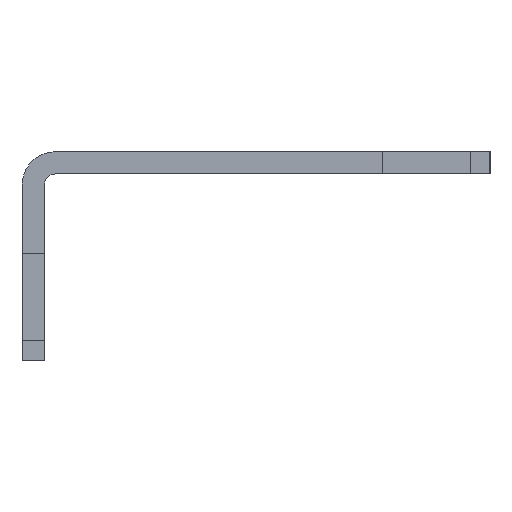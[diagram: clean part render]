
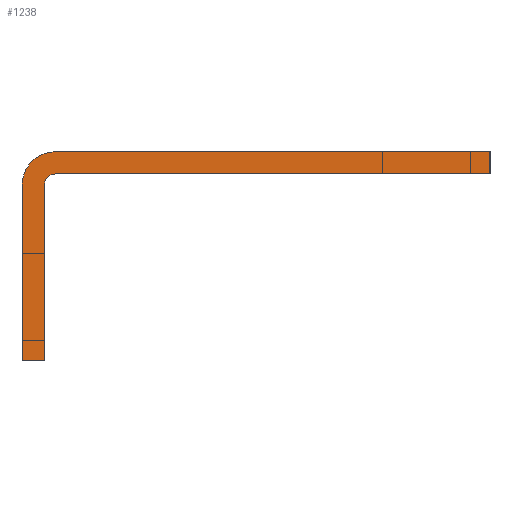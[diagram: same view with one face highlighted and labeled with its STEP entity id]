
A CAD part, left-side view. The second image highlights one B-rep face of the part: STEP entity #1238.
In plain terms, the highlighted planar face has unit normal (-1, 0, 0).
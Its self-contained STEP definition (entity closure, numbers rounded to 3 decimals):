
#1238 = ADVANCED_FACE( '', ( #3088 ), #3089, .T. );
#3088 = FACE_OUTER_BOUND( '', #5547, .T. );
#3089 = PLANE( '', #5548 );
#5547 = EDGE_LOOP( '', ( #9803, #9804, #9805, #9806, #9807, #9808, #9809, #9810 ) );
#5548 = AXIS2_PLACEMENT_3D( '', #9811, #9812, #9813 );
#9803 = ORIENTED_EDGE( '', *, *, #15645, .T. );
#9804 = ORIENTED_EDGE( '', *, *, #14916, .T. );
#9805 = ORIENTED_EDGE( '', *, *, #15696, .F. );
#9806 = ORIENTED_EDGE( '', *, *, #15697, .T. );
#9807 = ORIENTED_EDGE( '', *, *, #14559, .T. );
#9808 = ORIENTED_EDGE( '', *, *, #14196, .F. );
#9809 = ORIENTED_EDGE( '', *, *, #15698, .F. );
#9810 = ORIENTED_EDGE( '', *, *, #15699, .F. );
#9811 = CARTESIAN_POINT( '', ( -622.681, -25.4, 2.413 ) );
#9812 = DIRECTION( '', ( -1., 0., 0. ) );
#9813 = DIRECTION( '', ( 0., 0., 1. ) );
#14196 = EDGE_CURVE( '', #17098, #17100, #17101, .T. );
#14559 = EDGE_CURVE( '', #17805, #17100, #17806, .T. );
#14916 = EDGE_CURVE( '', #18385, #18389, #18391, .T. );
#15645 = EDGE_CURVE( '', #19546, #18385, #19547, .T. );
#15696 = EDGE_CURVE( '', #19616, #18389, #19617, .T. );
#15697 = EDGE_CURVE( '', #19616, #17805, #19618, .T. );
#15698 = EDGE_CURVE( '', #19619, #17098, #19620, .T. );
#15699 = EDGE_CURVE( '', #19546, #19619, #19621, .T. );
#17098 = VERTEX_POINT( '', #21402 );
#17100 = VERTEX_POINT( '', #21405 );
#17101 = CIRCLE( '', #21406, 1.219 );
#17805 = VERTEX_POINT( '', #22461 );
#17806 = LINE( '', #22462, #22463 );
#18385 = VERTEX_POINT( '', #23311 );
#18389 = VERTEX_POINT( '', #23316 );
#18391 = CIRCLE( '', #23319, 3.632 );
#19546 = VERTEX_POINT( '', #25070 );
#19547 = LINE( '', #25071, #25072 );
#19616 = VERTEX_POINT( '', #25175 );
#19617 = LINE( '', #25176, #25177 );
#19618 = LINE( '', #25178, #25179 );
#19619 = VERTEX_POINT( '', #25180 );
#19620 = LINE( '', #25181, #25182 );
#19621 = LINE( '', #25183, #25184 );
#21402 = CARTESIAN_POINT( '', ( -622.681, 21.768, 0. ) );
#21405 = CARTESIAN_POINT( '', ( -622.681, 22.987, -1.219 ) );
#21406 = AXIS2_PLACEMENT_3D( '', #27451, #27452, #27453 );
#22461 = CARTESIAN_POINT( '', ( -622.681, 22.987, -20.218 ) );
#22462 = CARTESIAN_POINT( '', ( -622.681, 22.987, 0.242 ) );
#22463 = VECTOR( '', #27814, 1000. );
#23311 = CARTESIAN_POINT( '', ( -622.681, 21.768, 2.413 ) );
#23316 = CARTESIAN_POINT( '', ( -622.681, 25.4, -1.219 ) );
#23319 = AXIS2_PLACEMENT_3D( '', #28095, #28096, #28097 );
#25070 = CARTESIAN_POINT( '', ( -622.681, -25.4, 2.413 ) );
#25071 = CARTESIAN_POINT( '', ( -622.681, -25.4, 2.413 ) );
#25072 = VECTOR( '', #28718, 1000. );
#25175 = CARTESIAN_POINT( '', ( -622.681, 25.4, -20.218 ) );
#25176 = CARTESIAN_POINT( '', ( -622.681, 25.4, 0.242 ) );
#25177 = VECTOR( '', #28753, 1000. );
#25178 = CARTESIAN_POINT( '', ( -622.681, 25.4, -20.218 ) );
#25179 = VECTOR( '', #28754, 1000. );
#25180 = CARTESIAN_POINT( '', ( -622.681, -25.4, 0. ) );
#25181 = CARTESIAN_POINT( '', ( -622.681, -25.4, 0. ) );
#25182 = VECTOR( '', #28755, 1000. );
#25183 = CARTESIAN_POINT( '', ( -622.681, -25.4, 2.413 ) );
#25184 = VECTOR( '', #28756, 1000. );
#27451 = CARTESIAN_POINT( '', ( -622.681, 21.768, -1.219 ) );
#27452 = DIRECTION( '', ( -1., 0., 0. ) );
#27453 = DIRECTION( '', ( 0., -1., 0. ) );
#27814 = DIRECTION( '', ( 0., 0., 1. ) );
#28095 = CARTESIAN_POINT( '', ( -622.681, 21.768, -1.219 ) );
#28096 = DIRECTION( '', ( -1., 0., 0. ) );
#28097 = DIRECTION( '', ( 0., 0., -1. ) );
#28718 = DIRECTION( '', ( 0., 1., 0. ) );
#28753 = DIRECTION( '', ( 0., 0., 1. ) );
#28754 = DIRECTION( '', ( 0., -1., 0. ) );
#28755 = DIRECTION( '', ( 0., 1., 0. ) );
#28756 = DIRECTION( '', ( 0., 0., -1. ) );
